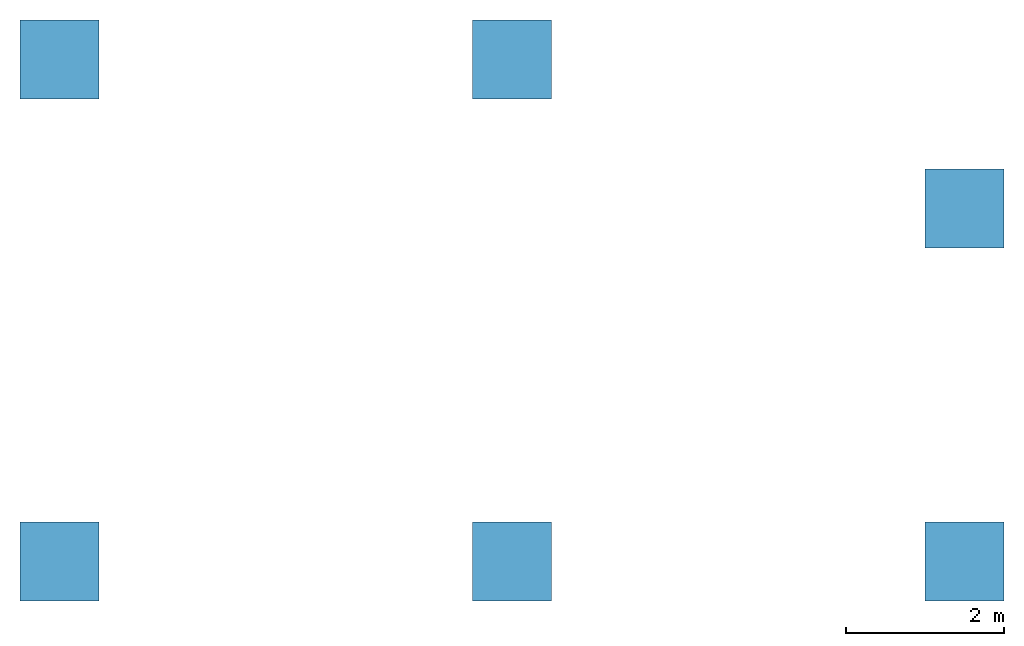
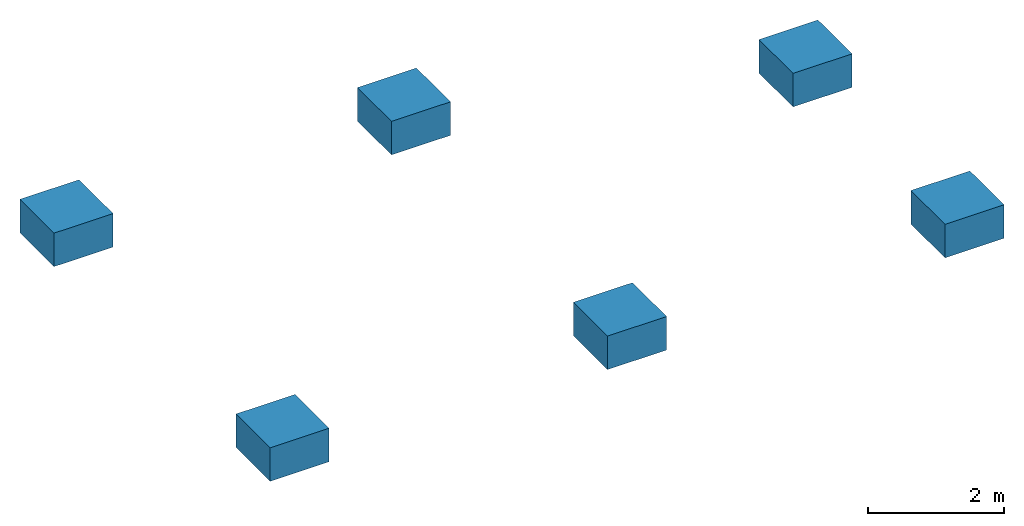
# One storey: 6 walls.
"""IFC2X3 building model written with IfcOpenShell, lengths in metres."""

from ifc_helpers import new_model, entity, si_unit, converted_unit, money_unit, direction, frame, origin_with_axes, place, context, subcontext, project, spatial, polyline, outline, extrude, material, type_object, element, save


model = new_model("IFC2X3")

# Units and contexts
model_context = context("Model", 3, precision=1e-05, world=origin_with_axes(), true_north=direction((0.0, 1.0)))
body_context = subcontext(model_context, "Body", "Model", "MODEL_VIEW")
ifc_project = project(units=[si_unit("LENGTHUNIT", "METRE"), si_unit("AREAUNIT", "SQUARE_METRE"), si_unit("VOLUMEUNIT", "CUBIC_METRE"), converted_unit("PLANEANGLEUNIT", "DEGREE", entity("IfcPlaneAngleMeasure", 0.0174532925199), si_unit("PLANEANGLEUNIT", "RADIAN"), dimensions=[0, 0, 0, 0, 0, 0, 0]), si_unit("SOLIDANGLEUNIT", "STERADIAN"), money_unit("EUR"), converted_unit("TIMEUNIT", "Year", entity("IfcTimeMeasure", 31556926.0), si_unit("TIMEUNIT", "SECOND"), dimensions=[0, 0, 0, 0, 0, 0, 0]), si_unit("MASSUNIT", "GRAM"), si_unit("THERMODYNAMICTEMPERATUREUNIT", "DEGREE_CELSIUS"), si_unit("LUMINOUSINTENSITYUNIT", "LUMEN")], contexts=[model_context])

# Site, building, storey
site_placement = place(None, origin_with_axes())
site = spatial("IfcSite", under=ifc_project, at=site_placement, Name="Site", CompositionType="ELEMENT")
building_placement = place(site_placement, origin_with_axes())
building = spatial("IfcBuilding", under=site, at=building_placement, Name="Bâtiment", CompositionType="ELEMENT")
storey_placement = place(building_placement, frame((0.0, 0.0, -0.85), z_axis=(0.0, 0.0, 1.0), x_axis=(1.0, 0.0, 0.0)))
storey = spatial("IfcBuildingStorey", under=building, at=storey_placement, Name="FF", CompositionType="ELEMENT", Elevation=-0.85)

# Walls
ifc_material = material(Name="GENERIQUE - STRUCTURE")
wall_type = type_object("IfcWallType", Name="Semelle isolée 1000 x 600", PredefinedType="NOTDEFINED")
for number, where, z_axis, x_axis, name in (
    (1, (10.2910297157, 17.4020559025, 0.3), (0.0, 0.0, 1.0), (0.0, -1.0, 0.0), "MC_AGL_Ext-001"),
    (2, (16.0060297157, 17.4020559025, 0.3), (0.0, 0.0, 1.0), (0.0, -1.0, 0.0), "MC_AGL_Ext-001"),
    (3, (21.7210297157, 15.5195559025, 0.3), (0.0, 0.0, 1.0), (0.0, -1.0, 0.0), "MC_AGL_Ext-001"),
    (4, (10.2910297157, 11.0620559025, 0.3), (0.0, 0.0, 1.0), (0.0, -1.0, 0.0), "MC_AGL_Ext-001"),
    (5, (16.0060297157, 11.0620559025, 0.3), (0.0, 0.0, 1.0), (0.0, -1.0, 0.0), "MC_AGL_Ext-001"),
    (6, (21.7210297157, 11.0620559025, 0.3), (0.0, 0.0, 1.0), (0.0, -1.0, 0.0), "MC_AGL_Ext-001"),
):
    element("IfcWall", number, at=place(storey_placement, frame(where, z_axis=z_axis, x_axis=x_axis)), inside=storey, type_object=wall_type, material=ifc_material, Name=name, context=body_context, shape_type="SweptSolid", body=[
        extrude(outline(polyline([(0.5, -0.3), (0.5, 0.3), (-0.5, 0.3), (-0.5, -0.3), (0.5, -0.3)])), frame((0.0, 0.0, 0.0), z_axis=(-1.0, 0.0, 0.0), x_axis=(0.0, -1.0, 0.0)), (0.0, 0.0, -1.0), 1.0),
    ])

save(model, "model.ifc")
